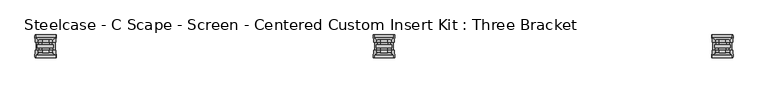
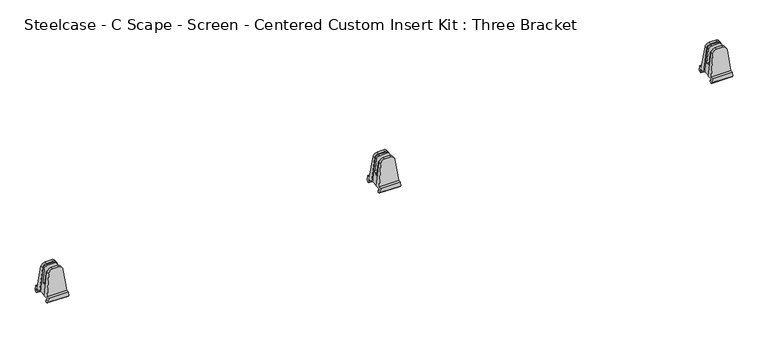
"""IFC4 building model written with IfcOpenShell, lengths in millimetres: furniture geometry, Steelcase - C Scape - Screen - Centered Custom Insert Kit : Three Bracket."""

from ifc_helpers import new_model, si_unit, frame, origin, place, context, project, spatial, circle_curve, ellipse_curve, source, transform, mapped, element, save
from ifc_brep_helpers import plane_surface, cylinder_surface, advanced_brep


def steelcase_c_scape_screen_centered_custom_insert_kit_three_c286ab6d(model_context):
    return source(origin(), model_context, "Body", "AdvancedBrep", [
        advanced_brep(
        [(906.2841595, -3.1752569, 793.5976353), (913.8879451, -3.1752569, 793.5976353), (921.53417, -3.1752569, 793.5976353), (921.53417, 3.17474, 793.5976353), (913.8879451, 3.17474, 793.5976353), (906.2841595, 3.17474, 793.5976353), (895.9729677, -3.1752569, 784.4759275), (888.5293978, -3.1752569, 723.9), (890.6133023, -3.1752569, 723.9), (896.8718736, -3.1752569, 783.4463283), (904.8737285, -3.1752569, 790.6512308), (924.4716053, -3.1752569, 790.6512308), (930.7871278, -3.1752569, 784.9620449), (937.1762521, -3.1752569, 723.9), (939.2889317, -3.1752569, 723.9), (931.8453617, -3.1752569, 784.4759275), (888.5293978, 10.1600734, 723.9), (939.2889317, 10.1600734, 723.9), (937.1762521, -22.2252569, 723.9), (939.2889317, -22.2250614, 723.9), (939.2889317, -35.5603917, 723.9), (888.5293978, -35.5603917, 723.9), (888.5293978, -22.2250614, 723.9), (890.6133023, -22.2250614, 723.9), (888.0607499, 10.1600734, 720.086134), (939.7575796, 10.1600734, 720.086134), (888.0607499, 6.7312129, 720.086134), (939.7575796, 6.7312129, 720.086134), (887.5301568, 6.7312129, 715.7681562), (940.2881727, 6.7312129, 715.7681562), (887.3195087, 9.1438564, 714.375), (940.4563815, 9.1438564, 714.375), (887.3589658, 11.8111354, 714.375), (940.4563815, 11.8111354, 714.375), (887.8271404, 15.6202052, 718.1850145), (939.9911891, 15.6202052, 718.1850145), (889.1754785, 15.6202052, 729.1578186), (938.642851, 15.6202052, 729.1578186), (889.1754785, 8.8135415, 729.1578186), (938.642851, 8.8135415, 729.1578186), (895.9729677, 3.9729344, 784.4759275), (931.8453617, 3.9729344, 784.4759275), (889.1754785, -34.2138598, 729.1578186), (938.642851, -34.2138598, 729.1578186), (931.8453617, -29.3732527, 784.4759275), (921.53417, -28.5750583, 793.5976353), (913.8879451, -28.5750583, 793.5976353), (906.2841595, -28.5750583, 793.5976353), (895.9729677, -29.3732527, 784.4759275), (889.1754785, -41.0205235, 729.1578186), (938.642851, -41.0205235, 729.1578186), (887.8271404, -41.0205235, 718.1850145), (939.9911891, -41.0205235, 718.1850145), (887.3195087, -37.2114537, 714.375), (940.4563815, -37.2114537, 714.375), (887.3589658, -34.5441746, 714.375), (940.4563815, -34.5441746, 714.375), (887.5301568, -32.1315312, 715.7681562), (940.2881727, -32.1315312, 715.7681562), (888.0607499, -32.1315312, 720.086134), (939.7575796, -32.1315312, 720.086134), (888.0607499, -35.5603917, 720.086134), (939.7575796, -35.5603917, 720.086134), (906.2841595, -22.2250614, 793.5976353), (913.8879451, -22.2250614, 793.5976353), (921.53417, -22.2250614, 793.5976353), (931.8453617, -22.2250614, 784.4759275), (931.3292917, -22.2250614, 779.780484), (923.5476145, -22.2250614, 786.79042), (904.0210312, -22.2250614, 786.79042), (896.5128008, -22.2250614, 780.0299789), (895.9729677, -22.2250614, 784.4759275), (904.0210312, -17.4500569, 786.79042), (923.5476145, -17.4500569, 786.79042), (931.3292917, -17.4500569, 779.780484), (934.6142458, -17.4500569, 748.3855694), (893.1868394, -17.4500569, 748.3855694), (896.5128008, -17.4500569, 780.0299789), (893.1868394, -7.9504569, 748.3855694), (896.8718736, -7.9504569, 783.4463283), (930.7871278, -7.9504569, 784.9620449), (934.6142458, -7.9504569, 748.3855694), (904.8737285, -7.9504569, 790.6512308), (924.4716053, -7.9504569, 790.6512308)],
        [
            (0, 1),
            (1, 2),
            (2, 3),
            (3, 4),
            (4, 5),
            (5, 0),
            (0, 6, circle_curve(frame((906.2841595, -3.1752569, 783.2088883), z_axis=(0.0, -1.0, 0.0), x_axis=(-1.0, 0.0, 0.0)), 10.388747)),
            (6, 7),
            (7, 8),
            (8, 9),
            (9, 10, circle_curve(frame((904.8737285, -3.1752569, 782.6052995), z_axis=(0.0, 1.0, 0.0), x_axis=(1.0, 0.0, 0.0)), 8.0459313)),
            (10, 11),
            (11, 12, circle_curve(frame((924.4716053, -3.1752569, 784.3012308), z_axis=(0.0, 1.0, 0.0), x_axis=(1.0, 0.0, 0.0)), 6.35)),
            (12, 13),
            (13, 14),
            (14, 15),
            (15, 2, circle_curve(frame((921.53417, -3.1752569, 783.2088883), z_axis=(0.0, -1.0, 0.0), x_axis=(1.0, 0.0, 0.0)), 10.388747)),
            (16, 17),
            (17, 14),
            (13, 18),
            (18, 19),
            (19, 20),
            (20, 21),
            (21, 22),
            (22, 23),
            (23, 8),
            (7, 16),
            (16, 24),
            (24, 25),
            (25, 17),
            (24, 26),
            (26, 27),
            (27, 25),
            (26, 28),
            (28, 29),
            (29, 27),
            (30, 31),
            (31, 29),
            (28, 30),
            (30, 32),
            (32, 33),
            (33, 31),
            (32, 34),
            (34, 35),
            (35, 33),
            (34, 36),
            (36, 37),
            (37, 35),
            (36, 38),
            (38, 39),
            (39, 37),
            (38, 40),
            (40, 5, ellipse_curve(frame((906.2841595, 4.0838066, 783.2088883), z_axis=(0.0, 0.9961932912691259, 0.08717182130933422), x_axis=(0.0, 0.08717182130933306, -0.9961932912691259)), 10.428445, 10.388747)),
            (3, 41, ellipse_curve(frame((921.53417, 4.0838066, 783.2088883), z_axis=(0.0, 0.9961932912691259, 0.08717182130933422), x_axis=(0.0, 0.08717182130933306, -0.9961932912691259)), 10.428445, 10.388747)),
            (41, 39),
            (42, 43),
            (43, 44),
            (44, 45, ellipse_curve(frame((921.53417, -29.4841248, 783.2088883), z_axis=(0.0, -0.9961932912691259, 0.08717182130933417), x_axis=(0.0, 0.08717182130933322, 0.996193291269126)), 10.428445, 10.388747)),
            (45, 46),
            (46, 47),
            (47, 48, ellipse_curve(frame((906.2841595, -29.4841248, 783.2088883), z_axis=(0.0, -0.9961932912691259, 0.08717182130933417), x_axis=(0.0, 0.08717182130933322, 0.996193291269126)), 10.428445, 10.388747)),
            (48, 42),
            (42, 49),
            (49, 50),
            (50, 43),
            (49, 51),
            (51, 52),
            (52, 50),
            (53, 54),
            (54, 52),
            (51, 53),
            (53, 55),
            (55, 56),
            (56, 54),
            (55, 57),
            (57, 58),
            (58, 56),
            (57, 59),
            (59, 60),
            (60, 58),
            (59, 61),
            (61, 62),
            (62, 60),
            (61, 21),
            (20, 62),
            (63, 64),
            (64, 65),
            (65, 66, circle_curve(frame((921.53417, -22.2250614, 783.2088883), z_axis=(0.0, 1.0, 0.0), x_axis=(1.0, 0.0, 0.0)), 10.388747)),
            (66, 19),
            (18, 67),
            (67, 68, circle_curve(frame((923.5476145, -22.2250614, 778.9662613), z_axis=(0.0, -1.0, 0.0), x_axis=(1.0, 0.0, 0.0)), 7.8241587)),
            (68, 69),
            (69, 70, circle_curve(frame((904.0210312, -22.2250614, 779.2408321), z_axis=(0.0, -1.0, 0.0), x_axis=(1.0, 0.0, 0.0)), 7.5495878)),
            (70, 23),
            (22, 71),
            (71, 63, circle_curve(frame((906.2841595, -22.2250614, 783.2088883), z_axis=(0.0, 1.0, 0.0), x_axis=(-1.0, 0.0, 0.0)), 10.388747)),
            (45, 65),
            (63, 47),
            (6, 40),
            (48, 71),
            (15, 41),
            (44, 66),
            (72, 73),
            (73, 74, circle_curve(frame((923.5476145, -17.4500569, 778.9662613), z_axis=(0.0, 1.0, 0.0), x_axis=(1.0, 0.0, 0.0)), 7.8241587)),
            (74, 75),
            (75, 76),
            (76, 77),
            (77, 72, circle_curve(frame((904.0210312, -17.4500569, 779.2408321), z_axis=(0.0, 1.0, 0.0), x_axis=(1.0, 0.0, 0.0)), 7.5495878)),
            (77, 70),
            (69, 72),
            (76, 78),
            (78, 79),
            (79, 9),
            (12, 80),
            (80, 81),
            (81, 75),
            (74, 67),
            (73, 68),
            (82, 79, circle_curve(frame((904.8737285, -7.9504569, 782.6052995), z_axis=(0.0, -1.0, 0.0), x_axis=(1.0, 0.0, 0.0)), 8.0459313)),
            (78, 81),
            (80, 83, circle_curve(frame((924.4716053, -7.9504569, 784.3012308), z_axis=(0.0, -1.0, 0.0), x_axis=(1.0, 0.0, 0.0)), 6.35)),
            (83, 82),
            (82, 10),
            (11, 83),
        ],
        [
            plane_surface(frame((940.4563815, 3.17474, 793.5976353), z_axis=(0.0, 0.0, 1.0), x_axis=(-1.0, 0.0, 0.0))),
            plane_surface(frame((940.4563815, -3.1752569, 793.5976353), z_axis=(0.0, -1.0, 0.0), x_axis=(-1.0, 0.0, 0.0))),
            plane_surface(frame((940.4563815, -3.1752569, 723.9), z_axis=(0.0, 0.0, -1.0), x_axis=(-1.0, 0.0, 0.0))),
            plane_surface(frame((940.4563815, 10.1600734, 723.9), z_axis=(0.0, -1.0, 0.0), x_axis=(-1.0, 0.0, 0.0))),
            plane_surface(frame((940.4563815, 10.1600734, 720.086134), z_axis=(0.0, 0.0, 1.0), x_axis=(-1.0, 0.0, 0.0))),
            plane_surface(frame((940.4563815, 6.7312129, 720.086134), z_axis=(0.0, -1.0, 0.0), x_axis=(-1.0, 0.0, 0.0))),
            plane_surface(frame((940.4563815, 6.7312129, 715.7681562), z_axis=(0.0, -0.5000581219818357, -0.8659918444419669), x_axis=(-1.0, 0.0, 0.0))),
            plane_surface(frame((940.4563815, 9.1438564, 714.375), z_axis=(0.0, 0.0, -1.0), x_axis=(-1.0, 0.0, 0.0))),
            plane_surface(frame((940.4563815, 11.8111354, 714.375), z_axis=(0.0, 0.7071944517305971, -0.7070190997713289), x_axis=(-1.0, 0.0, 0.0))),
            plane_surface(frame((940.4563815, 15.6202052, 718.1850145), z_axis=(0.0, 1.0, 0.0), x_axis=(-1.0, 0.0, 0.0))),
            plane_surface(frame((940.4563815, 15.6202052, 729.1578186), z_axis=(0.0, 0.0, 1.0), x_axis=(-1.0, 0.0, 0.0))),
            plane_surface(frame((940.4563815, 8.8135415, 729.1578186), z_axis=(0.0, 0.9961932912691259, 0.08717182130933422), x_axis=(-1.0, 0.0, 0.0))),
            plane_surface(frame((940.4563815, -28.5750583, 793.5976353), z_axis=(0.0, -0.9961932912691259, 0.08717182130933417), x_axis=(-1.0, 0.0, 0.0))),
            plane_surface(frame((940.4563815, -34.2138598, 729.1578186), z_axis=(0.0, 0.0, 1.0), x_axis=(-1.0, 0.0, 0.0))),
            plane_surface(frame((940.4563815, -41.0205235, 729.1578186), z_axis=(0.0, -1.0, 0.0), x_axis=(-1.0, 0.0, 0.0))),
            plane_surface(frame((940.4563815, -41.0205235, 718.1850145), z_axis=(0.0, -0.7071944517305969, -0.707019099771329), x_axis=(-1.0, 0.0, 0.0))),
            plane_surface(frame((940.4563815, -37.2114537, 714.375), z_axis=(0.0, 0.0, -1.0), x_axis=(-1.0, 0.0, 0.0))),
            plane_surface(frame((940.4563815, -34.5441746, 714.375), z_axis=(0.0, 0.5000581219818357, -0.8659918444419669), x_axis=(-1.0, 0.0, 0.0))),
            plane_surface(frame((940.4563815, -32.1315312, 715.7681562), z_axis=(0.0, 1.0, 0.0), x_axis=(-1.0, 0.0, 0.0))),
            plane_surface(frame((940.4563815, -32.1315312, 720.086134), z_axis=(0.0, 0.0, 1.0), x_axis=(-1.0, 0.0, 0.0))),
            plane_surface(frame((940.4563815, -35.5603917, 720.086134), z_axis=(0.0, 1.0, 0.0), x_axis=(-1.0, 0.0, 0.0))),
            plane_surface(frame((940.4563815, -22.2250614, 723.9), z_axis=(0.0, 1.0, 0.0), x_axis=(-1.0, 0.0, 0.0))),
            plane_surface(frame((940.4563815, -22.2250614, 793.5976353), z_axis=(0.0, 0.0, 1.0), x_axis=(-1.0, 0.0, 0.0))),
            plane_surface(frame((887.3589658, -43.2064559, 714.375), z_axis=(-0.9925346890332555, 0.0, 0.12196266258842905), x_axis=(0.0, 1.0, 0.0))),
            cylinder_surface(frame((906.2841595, 17.5208706, 783.2088883), z_axis=(0.0, 1.0, 0.0), x_axis=(-1.0, 0.0, 0.0)), 10.388747),
            cylinder_surface(frame((921.53417, 17.5208706, 783.2088883), z_axis=(0.0, 1.0, 0.0), x_axis=(1.0, 0.0, 0.0)), 10.388747),
            plane_surface(frame((931.8453617, -43.2064559, 784.4759275), z_axis=(0.9925346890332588, 0.0, 0.12196266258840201), x_axis=(0.0, 1.0, 0.0))),
            plane_surface(frame((911.5706191, -17.4500569, 779.2408321), z_axis=(0.0, 1.0, 0.0), x_axis=(0.0, 0.0, -1.0))),
            cylinder_surface(frame((904.0210312, -17.4500569, 779.2408321), z_axis=(0.0, -1.0, 0.0), x_axis=(1.0, 0.0, 0.0)), 7.5495878),
            plane_surface(frame((896.5128008, -22.2252569, 780.0299789), z_axis=(-0.9945218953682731, 0.0, 0.10452846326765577), x_axis=(0.0, 1.0, 0.0))),
            plane_surface(frame((937.1762521, -22.2252569, 723.9), z_axis=(0.9945704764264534, 0.0, 0.10406520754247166), x_axis=(0.0, 1.0, 0.0))),
            cylinder_surface(frame((923.5476145, -17.4500569, 778.9662613), z_axis=(0.0, -1.0, 0.0), x_axis=(1.0, 0.0, 0.0)), 7.8241587),
            plane_surface(frame((923.5476145, -22.2252569, 786.79042), z_axis=(0.0, 0.0, 1.0), x_axis=(0.0, 1.0, 0.0))),
            plane_surface(frame((912.9196598, -7.9504569, 782.6052995), z_axis=(0.0, -1.0, 0.0), x_axis=(0.0, 0.0, 1.0))),
            cylinder_surface(frame((904.8737285, -3.1752569, 782.6052995), z_axis=(0.0, -1.0, 0.0), x_axis=(1.0, 0.0, 0.0)), 8.0459313),
            cylinder_surface(frame((924.4716053, -3.1752569, 784.3012308), z_axis=(0.0, -1.0, 0.0), x_axis=(1.0, 0.0, 0.0)), 6.35),
            plane_surface(frame((924.4716053, -7.9504569, 790.6512308), z_axis=(0.0, 0.0, 1.0), x_axis=(0.0, 1.0, 0.0))),
            plane_surface(frame((934.6142458, -17.4500569, 748.3855694), z_axis=(0.0, 0.0, 1.0), x_axis=(0.0, 1.0, 0.0))),
        ],
        [
            (0, [[1, 2, 3, 4, 5, 6]]),
            (1, [[-1, 7, 8, 9, 10, 11, 12, 13, 14, 15, 16, 17, -2]]),
            (2, [[18, 19, -15, 20, 21, 22, 23, 24, 25, 26, -9, 27]]),
            (3, [[-18, 28, 29, 30]]),
            (4, [[-29, 31, 32, 33]]),
            (5, [[-32, 34, 35, 36]]),
            (6, [[37, 38, -35, 39]]),
            (7, [[-37, 40, 41, 42]]),
            (8, [[-41, 43, 44, 45]]),
            (9, [[-44, 46, 47, 48]]),
            (10, [[-47, 49, 50, 51]]),
            (11, [[-50, 52, 53, -5, -4, 54, 55]]),
            (12, [[56, 57, 58, 59, 60, 61, 62]]),
            (13, [[-56, 63, 64, 65]]),
            (14, [[-64, 66, 67, 68]]),
            (15, [[69, 70, -67, 71]]),
            (16, [[-69, 72, 73, 74]]),
            (17, [[-73, 75, 76, 77]]),
            (18, [[-76, 78, 79, 80]]),
            (19, [[-79, 81, 82, 83]]),
            (20, [[-82, 84, -23, 85]]),
            (21, [[86, 87, 88, 89, -21, 90, 91, 92, 93, 94, -25, 95, 96]]),
            (22, [[-59, 97, -87, -86, 98, -60]]),
            (23, [[99, -52, -49, -46, -43, -40, -39, -34, -31, -28, -27, -8]]),
            (23, [[100, -95, -24, -84, -81, -78, -75, -72, -71, -66, -63, -62]]),
            (24, [[-99, -7, -6, -53]]),
            (24, [[-100, -61, -98, -96]]),
            (25, [[101, -54, -3, -17]]),
            (25, [[102, -88, -97, -58]]),
            (26, [[-101, -16, -19, -30, -33, -36, -38, -42, -45, -48, -51, -55]]),
            (26, [[-102, -57, -65, -68, -70, -74, -77, -80, -83, -85, -22, -89]]),
            (27, [[103, 104, 105, 106, 107, 108]]),
            (28, [[-108, 109, -93, 110]]),
            (29, [[-109, -107, 111, 112, 113, -10, -26, -94]]),
            (30, [[-20, -14, 114, 115, 116, -105, 117, -90]]),
            (31, [[-104, 118, -91, -117]]),
            (32, [[-103, -110, -92, -118]]),
            (33, [[119, -112, 120, -115, 121, 122]]),
            (34, [[-119, 123, -11, -113]]),
            (35, [[-121, -114, -13, 124]]),
            (36, [[-122, -124, -12, -123]]),
            (37, [[-111, -106, -116, -120]]),
        ],
    ),
        advanced_brep(
        [(1745.5509563, -3.1752569, 793.5976353), (1753.1547419, -3.1752569, 793.5976353), (1760.8009668, -3.1752569, 793.5976353), (1760.8009668, 3.17474, 793.5976353), (1753.1547419, 3.17474, 793.5976353), (1745.5509563, 3.17474, 793.5976353), (1735.2397645, -3.1752569, 784.4759275), (1727.7961946, -3.1752569, 723.9), (1729.8800991, -3.1752569, 723.9), (1736.1386704, -3.1752569, 783.4463283), (1744.1405253, -3.1752569, 790.6512308), (1763.7384021, -3.1752569, 790.6512308), (1770.0539246, -3.1752569, 784.9620449), (1776.4430489, -3.1752569, 723.9), (1778.5557285, -3.1752569, 723.9), (1771.1121585, -3.1752569, 784.4759275), (1727.7961946, 10.1600734, 723.9), (1778.5557285, 10.1600734, 723.9), (1776.4430489, -22.2252569, 723.9), (1778.5557285, -22.2250614, 723.9), (1778.5557285, -35.5603917, 723.9), (1727.7961946, -35.5603917, 723.9), (1727.7961946, -22.2250614, 723.9), (1729.8800991, -22.2250614, 723.9), (1727.3275467, 10.1600734, 720.086134), (1779.0243764, 10.1600734, 720.086134), (1727.3275467, 6.7312129, 720.086134), (1779.0243764, 6.7312129, 720.086134), (1726.7969536, 6.7312129, 715.7681562), (1779.5549695, 6.7312129, 715.7681562), (1726.5863055, 9.1438564, 714.375), (1779.7231783, 9.1438564, 714.375), (1726.6257626, 11.8111354, 714.375), (1779.7231783, 11.8111354, 714.375), (1727.0939371, 15.6202052, 718.1850145), (1779.2579859, 15.6202052, 718.1850145), (1728.4422753, 15.6202052, 729.1578186), (1777.9096478, 15.6202052, 729.1578186), (1728.4422753, 8.8135415, 729.1578186), (1777.9096478, 8.8135415, 729.1578186), (1735.2397645, 3.9729344, 784.4759275), (1771.1121585, 3.9729344, 784.4759275), (1728.4422753, -34.2138598, 729.1578186), (1777.9096478, -34.2138598, 729.1578186), (1771.1121585, -29.3732527, 784.4759275), (1760.8009668, -28.5750583, 793.5976353), (1753.1547419, -28.5750583, 793.5976353), (1745.5509563, -28.5750583, 793.5976353), (1735.2397645, -29.3732527, 784.4759275), (1728.4422753, -41.0205235, 729.1578186), (1777.9096478, -41.0205235, 729.1578186), (1727.0939371, -41.0205235, 718.1850145), (1779.2579859, -41.0205235, 718.1850145), (1726.5863055, -37.2114537, 714.375), (1779.7231783, -37.2114537, 714.375), (1726.6257626, -34.5441746, 714.375), (1779.7231783, -34.5441746, 714.375), (1726.7969536, -32.1315312, 715.7681562), (1779.5549695, -32.1315312, 715.7681562), (1727.3275467, -32.1315312, 720.086134), (1779.0243764, -32.1315312, 720.086134), (1727.3275467, -35.5603917, 720.086134), (1779.0243764, -35.5603917, 720.086134), (1745.5509563, -22.2250614, 793.5976353), (1753.1547419, -22.2250614, 793.5976353), (1760.8009668, -22.2250614, 793.5976353), (1771.1121585, -22.2250614, 784.4759275), (1770.5960885, -22.2250614, 779.780484), (1762.8144113, -22.2250614, 786.79042), (1743.287828, -22.2250614, 786.79042), (1735.7795976, -22.2250614, 780.0299789), (1735.2397645, -22.2250614, 784.4759275), (1743.287828, -17.4500569, 786.79042), (1762.8144113, -17.4500569, 786.79042), (1770.5960885, -17.4500569, 779.780484), (1773.8810426, -17.4500569, 748.3855694), (1732.4536361, -17.4500569, 748.3855694), (1735.7795976, -17.4500569, 780.0299789), (1732.4536361, -7.9504569, 748.3855694), (1736.1386704, -7.9504569, 783.4463283), (1770.0539246, -7.9504569, 784.9620449), (1773.8810426, -7.9504569, 748.3855694), (1744.1405253, -7.9504569, 790.6512308), (1763.7384021, -7.9504569, 790.6512308)],
        [
            (0, 1),
            (1, 2),
            (2, 3),
            (3, 4),
            (4, 5),
            (5, 0),
            (0, 6, circle_curve(frame((1745.5509563, -3.1752569, 783.2088883), z_axis=(0.0, -1.0, 0.0), x_axis=(-1.0, 0.0, 0.0)), 10.388747)),
            (6, 7),
            (7, 8),
            (8, 9),
            (9, 10, circle_curve(frame((1744.1405253, -3.1752569, 782.6052995), z_axis=(0.0, 1.0, 0.0), x_axis=(1.0, 0.0, 0.0)), 8.0459313)),
            (10, 11),
            (11, 12, circle_curve(frame((1763.7384021, -3.1752569, 784.3012308), z_axis=(0.0, 1.0, 0.0), x_axis=(1.0, 0.0, 0.0)), 6.35)),
            (12, 13),
            (13, 14),
            (14, 15),
            (15, 2, circle_curve(frame((1760.8009668, -3.1752569, 783.2088883), z_axis=(0.0, -1.0, 0.0), x_axis=(1.0, 0.0, 0.0)), 10.388747)),
            (16, 17),
            (17, 14),
            (13, 18),
            (18, 19),
            (19, 20),
            (20, 21),
            (21, 22),
            (22, 23),
            (23, 8),
            (7, 16),
            (16, 24),
            (24, 25),
            (25, 17),
            (24, 26),
            (26, 27),
            (27, 25),
            (26, 28),
            (28, 29),
            (29, 27),
            (30, 31),
            (31, 29),
            (28, 30),
            (30, 32),
            (32, 33),
            (33, 31),
            (32, 34),
            (34, 35),
            (35, 33),
            (34, 36),
            (36, 37),
            (37, 35),
            (36, 38),
            (38, 39),
            (39, 37),
            (38, 40),
            (40, 5, ellipse_curve(frame((1745.5509563, 4.0838066, 783.2088883), z_axis=(0.0, 0.9961932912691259, 0.08717182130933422), x_axis=(0.0, 0.08717182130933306, -0.9961932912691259)), 10.428445, 10.388747)),
            (3, 41, ellipse_curve(frame((1760.8009668, 4.0838066, 783.2088883), z_axis=(0.0, 0.9961932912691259, 0.08717182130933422), x_axis=(0.0, 0.08717182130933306, -0.9961932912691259)), 10.428445, 10.388747)),
            (41, 39),
            (42, 43),
            (43, 44),
            (44, 45, ellipse_curve(frame((1760.8009668, -29.4841248, 783.2088883), z_axis=(0.0, -0.9961932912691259, 0.08717182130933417), x_axis=(0.0, 0.08717182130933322, 0.996193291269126)), 10.428445, 10.388747)),
            (45, 46),
            (46, 47),
            (47, 48, ellipse_curve(frame((1745.5509563, -29.4841248, 783.2088883), z_axis=(0.0, -0.9961932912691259, 0.08717182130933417), x_axis=(0.0, 0.08717182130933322, 0.996193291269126)), 10.428445, 10.388747)),
            (48, 42),
            (42, 49),
            (49, 50),
            (50, 43),
            (49, 51),
            (51, 52),
            (52, 50),
            (53, 54),
            (54, 52),
            (51, 53),
            (53, 55),
            (55, 56),
            (56, 54),
            (55, 57),
            (57, 58),
            (58, 56),
            (57, 59),
            (59, 60),
            (60, 58),
            (59, 61),
            (61, 62),
            (62, 60),
            (61, 21),
            (20, 62),
            (63, 64),
            (64, 65),
            (65, 66, circle_curve(frame((1760.8009668, -22.2250614, 783.2088883), z_axis=(0.0, 1.0, 0.0), x_axis=(1.0, 0.0, 0.0)), 10.388747)),
            (66, 19),
            (18, 67),
            (67, 68, circle_curve(frame((1762.8144113, -22.2250614, 778.9662613), z_axis=(0.0, -1.0, 0.0), x_axis=(1.0, 0.0, 0.0)), 7.8241587)),
            (68, 69),
            (69, 70, circle_curve(frame((1743.287828, -22.2250614, 779.2408321), z_axis=(0.0, -1.0, 0.0), x_axis=(1.0, 0.0, 0.0)), 7.5495878)),
            (70, 23),
            (22, 71),
            (71, 63, circle_curve(frame((1745.5509563, -22.2250614, 783.2088883), z_axis=(0.0, 1.0, 0.0), x_axis=(-1.0, 0.0, 0.0)), 10.388747)),
            (45, 65),
            (63, 47),
            (6, 40),
            (48, 71),
            (15, 41),
            (44, 66),
            (72, 73),
            (73, 74, circle_curve(frame((1762.8144113, -17.4500569, 778.9662613), z_axis=(0.0, 1.0, 0.0), x_axis=(1.0, 0.0, 0.0)), 7.8241587)),
            (74, 75),
            (75, 76),
            (76, 77),
            (77, 72, circle_curve(frame((1743.287828, -17.4500569, 779.2408321), z_axis=(0.0, 1.0, 0.0), x_axis=(1.0, 0.0, 0.0)), 7.5495878)),
            (77, 70),
            (69, 72),
            (76, 78),
            (78, 79),
            (79, 9),
            (12, 80),
            (80, 81),
            (81, 75),
            (74, 67),
            (73, 68),
            (82, 79, circle_curve(frame((1744.1405253, -7.9504569, 782.6052995), z_axis=(0.0, -1.0, 0.0), x_axis=(1.0, 0.0, 0.0)), 8.0459313)),
            (78, 81),
            (80, 83, circle_curve(frame((1763.7384021, -7.9504569, 784.3012308), z_axis=(0.0, -1.0, 0.0), x_axis=(1.0, 0.0, 0.0)), 6.35)),
            (83, 82),
            (82, 10),
            (11, 83),
        ],
        [
            plane_surface(frame((1779.7231783, 3.17474, 793.5976353), z_axis=(0.0, 0.0, 1.0), x_axis=(-1.0, 0.0, 0.0))),
            plane_surface(frame((1779.7231783, -3.1752569, 793.5976353), z_axis=(0.0, -1.0, 0.0), x_axis=(-1.0, 0.0, 0.0))),
            plane_surface(frame((1779.7231783, -3.1752569, 723.9), z_axis=(0.0, 0.0, -1.0), x_axis=(-1.0, 0.0, 0.0))),
            plane_surface(frame((1779.7231783, 10.1600734, 723.9), z_axis=(0.0, -1.0, 0.0), x_axis=(-1.0, 0.0, 0.0))),
            plane_surface(frame((1779.7231783, 10.1600734, 720.086134), z_axis=(0.0, 0.0, 1.0), x_axis=(-1.0, 0.0, 0.0))),
            plane_surface(frame((1779.7231783, 6.7312129, 720.086134), z_axis=(0.0, -1.0, 0.0), x_axis=(-1.0, 0.0, 0.0))),
            plane_surface(frame((1779.7231783, 6.7312129, 715.7681562), z_axis=(0.0, -0.5000581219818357, -0.8659918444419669), x_axis=(-1.0, 0.0, 0.0))),
            plane_surface(frame((1779.7231783, 9.1438564, 714.375), z_axis=(0.0, 0.0, -1.0), x_axis=(-1.0, 0.0, 0.0))),
            plane_surface(frame((1779.7231783, 11.8111354, 714.375), z_axis=(0.0, 0.7071944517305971, -0.7070190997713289), x_axis=(-1.0, 0.0, 0.0))),
            plane_surface(frame((1779.7231783, 15.6202052, 718.1850145), z_axis=(0.0, 1.0, 0.0), x_axis=(-1.0, 0.0, 0.0))),
            plane_surface(frame((1779.7231783, 15.6202052, 729.1578186), z_axis=(0.0, 0.0, 1.0), x_axis=(-1.0, 0.0, 0.0))),
            plane_surface(frame((1779.7231783, 8.8135415, 729.1578186), z_axis=(0.0, 0.9961932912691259, 0.08717182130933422), x_axis=(-1.0, 0.0, 0.0))),
            plane_surface(frame((1779.7231783, -28.5750583, 793.5976353), z_axis=(0.0, -0.9961932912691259, 0.08717182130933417), x_axis=(-1.0, 0.0, 0.0))),
            plane_surface(frame((1779.7231783, -34.2138598, 729.1578186), z_axis=(0.0, 0.0, 1.0), x_axis=(-1.0, 0.0, 0.0))),
            plane_surface(frame((1779.7231783, -41.0205235, 729.1578186), z_axis=(0.0, -1.0, 0.0), x_axis=(-1.0, 0.0, 0.0))),
            plane_surface(frame((1779.7231783, -41.0205235, 718.1850145), z_axis=(0.0, -0.7071944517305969, -0.707019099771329), x_axis=(-1.0, 0.0, 0.0))),
            plane_surface(frame((1779.7231783, -37.2114537, 714.375), z_axis=(0.0, 0.0, -1.0), x_axis=(-1.0, 0.0, 0.0))),
            plane_surface(frame((1779.7231783, -34.5441746, 714.375), z_axis=(0.0, 0.5000581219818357, -0.8659918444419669), x_axis=(-1.0, 0.0, 0.0))),
            plane_surface(frame((1779.7231783, -32.1315312, 715.7681562), z_axis=(0.0, 1.0, 0.0), x_axis=(-1.0, 0.0, 0.0))),
            plane_surface(frame((1779.7231783, -32.1315312, 720.086134), z_axis=(0.0, 0.0, 1.0), x_axis=(-1.0, 0.0, 0.0))),
            plane_surface(frame((1779.7231783, -35.5603917, 720.086134), z_axis=(0.0, 1.0, 0.0), x_axis=(-1.0, 0.0, 0.0))),
            plane_surface(frame((1779.7231783, -22.2250614, 723.9), z_axis=(0.0, 1.0, 0.0), x_axis=(-1.0, 0.0, 0.0))),
            plane_surface(frame((1779.7231783, -22.2250614, 793.5976353), z_axis=(0.0, 0.0, 1.0), x_axis=(-1.0, 0.0, 0.0))),
            plane_surface(frame((1726.6257626, -43.2064559, 714.375), z_axis=(-0.9925346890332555, 0.0, 0.12196266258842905), x_axis=(0.0, 1.0, 0.0))),
            cylinder_surface(frame((1745.5509563, 17.5208706, 783.2088883), z_axis=(0.0, 1.0, 0.0), x_axis=(-1.0, 0.0, 0.0)), 10.388747),
            cylinder_surface(frame((1760.8009668, 17.5208706, 783.2088883), z_axis=(0.0, 1.0, 0.0), x_axis=(1.0, 0.0, 0.0)), 10.388747),
            plane_surface(frame((1771.1121585, -43.2064559, 784.4759275), z_axis=(0.9925346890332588, 0.0, 0.12196266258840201), x_axis=(0.0, 1.0, 0.0))),
            plane_surface(frame((1750.8374158, -17.4500569, 779.2408321), z_axis=(0.0, 1.0, 0.0), x_axis=(0.0, 0.0, -1.0))),
            cylinder_surface(frame((1743.287828, -17.4500569, 779.2408321), z_axis=(0.0, -1.0, 0.0), x_axis=(1.0, 0.0, 0.0)), 7.5495878),
            plane_surface(frame((1735.7795976, -22.2252569, 780.0299789), z_axis=(-0.9945218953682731, 0.0, 0.10452846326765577), x_axis=(0.0, 1.0, 0.0))),
            plane_surface(frame((1776.4430489, -22.2252569, 723.9), z_axis=(0.9945704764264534, 0.0, 0.10406520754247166), x_axis=(0.0, 1.0, 0.0))),
            cylinder_surface(frame((1762.8144113, -17.4500569, 778.9662613), z_axis=(0.0, -1.0, 0.0), x_axis=(1.0, 0.0, 0.0)), 7.8241587),
            plane_surface(frame((1762.8144113, -22.2252569, 786.79042), z_axis=(0.0, 0.0, 1.0), x_axis=(0.0, 1.0, 0.0))),
            plane_surface(frame((1752.1864566, -7.9504569, 782.6052995), z_axis=(0.0, -1.0, 0.0), x_axis=(0.0, 0.0, 1.0))),
            cylinder_surface(frame((1744.1405253, -3.1752569, 782.6052995), z_axis=(0.0, -1.0, 0.0), x_axis=(1.0, 0.0, 0.0)), 8.0459313),
            cylinder_surface(frame((1763.7384021, -3.1752569, 784.3012308), z_axis=(0.0, -1.0, 0.0), x_axis=(1.0, 0.0, 0.0)), 6.35),
            plane_surface(frame((1763.7384021, -7.9504569, 790.6512308), z_axis=(0.0, 0.0, 1.0), x_axis=(0.0, 1.0, 0.0))),
            plane_surface(frame((1773.8810426, -17.4500569, 748.3855694), z_axis=(0.0, 0.0, 1.0), x_axis=(0.0, 1.0, 0.0))),
        ],
        [
            (0, [[1, 2, 3, 4, 5, 6]]),
            (1, [[-1, 7, 8, 9, 10, 11, 12, 13, 14, 15, 16, 17, -2]]),
            (2, [[18, 19, -15, 20, 21, 22, 23, 24, 25, 26, -9, 27]]),
            (3, [[-18, 28, 29, 30]]),
            (4, [[-29, 31, 32, 33]]),
            (5, [[-32, 34, 35, 36]]),
            (6, [[37, 38, -35, 39]]),
            (7, [[-37, 40, 41, 42]]),
            (8, [[-41, 43, 44, 45]]),
            (9, [[-44, 46, 47, 48]]),
            (10, [[-47, 49, 50, 51]]),
            (11, [[-50, 52, 53, -5, -4, 54, 55]]),
            (12, [[56, 57, 58, 59, 60, 61, 62]]),
            (13, [[-56, 63, 64, 65]]),
            (14, [[-64, 66, 67, 68]]),
            (15, [[69, 70, -67, 71]]),
            (16, [[-69, 72, 73, 74]]),
            (17, [[-73, 75, 76, 77]]),
            (18, [[-76, 78, 79, 80]]),
            (19, [[-79, 81, 82, 83]]),
            (20, [[-82, 84, -23, 85]]),
            (21, [[86, 87, 88, 89, -21, 90, 91, 92, 93, 94, -25, 95, 96]]),
            (22, [[-59, 97, -87, -86, 98, -60]]),
            (23, [[99, -52, -49, -46, -43, -40, -39, -34, -31, -28, -27, -8]]),
            (23, [[100, -95, -24, -84, -81, -78, -75, -72, -71, -66, -63, -62]]),
            (24, [[-99, -7, -6, -53]]),
            (24, [[-100, -61, -98, -96]]),
            (25, [[101, -54, -3, -17]]),
            (25, [[102, -88, -97, -58]]),
            (26, [[-101, -16, -19, -30, -33, -36, -38, -42, -45, -48, -51, -55]]),
            (26, [[-102, -57, -65, -68, -70, -74, -77, -80, -83, -85, -22, -89]]),
            (27, [[103, 104, 105, 106, 107, 108]]),
            (28, [[-108, 109, -93, 110]]),
            (29, [[-109, -107, 111, 112, 113, -10, -26, -94]]),
            (30, [[-20, -14, 114, 115, 116, -105, 117, -90]]),
            (31, [[-104, 118, -91, -117]]),
            (32, [[-103, -110, -92, -118]]),
            (33, [[119, -112, 120, -115, 121, 122]]),
            (34, [[-119, 123, -11, -113]]),
            (35, [[-121, -114, -13, 124]]),
            (36, [[-122, -124, -12, -123]]),
            (37, [[-111, -106, -116, -120]]),
        ],
    ),
        advanced_brep(
        [(67.0173627, -3.1752569, 793.5976353), (74.6211483, -3.1752569, 793.5976353), (82.2673732, -3.1752569, 793.5976353), (82.2673732, 3.17474, 793.5976353), (74.6211483, 3.17474, 793.5976353), (67.0173627, 3.17474, 793.5976353), (56.706171, -3.1752569, 784.4759275), (49.262601, -3.1752569, 723.9), (51.3465055, -3.1752569, 723.9), (57.6050768, -3.1752569, 783.4463283), (65.6069317, -3.1752569, 790.6512308), (85.2048085, -3.1752569, 790.6512308), (91.520331, -3.1752569, 784.9620449), (97.9094553, -3.1752569, 723.9), (100.0221349, -3.1752569, 723.9), (92.578565, -3.1752569, 784.4759275), (49.262601, 10.1600734, 723.9), (100.0221349, 10.1600734, 723.9), (97.9094553, -22.2252569, 723.9), (100.0221349, -22.2250614, 723.9), (100.0221349, -35.5603917, 723.9), (49.262601, -35.5603917, 723.9), (49.262601, -22.2250614, 723.9), (51.3465055, -22.2250614, 723.9), (48.7939531, 10.1600734, 720.086134), (100.4907828, 10.1600734, 720.086134), (48.7939531, 6.7312129, 720.086134), (100.4907828, 6.7312129, 720.086134), (48.26336, 6.7312129, 715.7681562), (101.0213759, 6.7312129, 715.7681562), (48.0527119, 9.1438564, 714.375), (101.1895848, 9.1438564, 714.375), (48.092169, 11.8111354, 714.375), (101.1895848, 11.8111354, 714.375), (48.5603436, 15.6202052, 718.1850145), (100.7243923, 15.6202052, 718.1850145), (49.9086817, 15.6202052, 729.1578186), (99.3760542, 15.6202052, 729.1578186), (49.9086817, 8.8135415, 729.1578186), (99.3760542, 8.8135415, 729.1578186), (56.706171, 3.9729344, 784.4759275), (92.578565, 3.9729344, 784.4759275), (49.9086817, -34.2138598, 729.1578186), (99.3760542, -34.2138598, 729.1578186), (92.578565, -29.3732527, 784.4759275), (82.2673732, -28.5750583, 793.5976353), (74.6211483, -28.5750583, 793.5976353), (67.0173627, -28.5750583, 793.5976353), (56.706171, -29.3732527, 784.4759275), (49.9086817, -41.0205235, 729.1578186), (99.3760542, -41.0205235, 729.1578186), (48.5603436, -41.0205235, 718.1850145), (100.7243923, -41.0205235, 718.1850145), (48.0527119, -37.2114537, 714.375), (101.1895848, -37.2114537, 714.375), (48.092169, -34.5441746, 714.375), (101.1895848, -34.5441746, 714.375), (48.26336, -32.1315312, 715.7681562), (101.0213759, -32.1315312, 715.7681562), (48.7939531, -32.1315312, 720.086134), (100.4907828, -32.1315312, 720.086134), (48.7939531, -35.5603917, 720.086134), (100.4907828, -35.5603917, 720.086134), (67.0173627, -22.2250614, 793.5976353), (74.6211483, -22.2250614, 793.5976353), (82.2673732, -22.2250614, 793.5976353), (92.578565, -22.2250614, 784.4759275), (92.0624949, -22.2250614, 779.780484), (84.2808177, -22.2250614, 786.79042), (64.7542344, -22.2250614, 786.79042), (57.246004, -22.2250614, 780.0299789), (56.706171, -22.2250614, 784.4759275), (64.7542344, -17.4500569, 786.79042), (84.2808177, -17.4500569, 786.79042), (92.0624949, -17.4500569, 779.780484), (95.347449, -17.4500569, 748.3855694), (53.9200426, -17.4500569, 748.3855694), (57.246004, -17.4500569, 780.0299789), (53.9200426, -7.9504569, 748.3855694), (57.6050768, -7.9504569, 783.4463283), (91.520331, -7.9504569, 784.9620449), (95.347449, -7.9504569, 748.3855694), (65.6069317, -7.9504569, 790.6512308), (85.2048085, -7.9504569, 790.6512308)],
        [
            (0, 1),
            (1, 2),
            (2, 3),
            (3, 4),
            (4, 5),
            (5, 0),
            (0, 6, circle_curve(frame((67.0173627, -3.1752569, 783.2088883), z_axis=(0.0, -1.0, 0.0), x_axis=(-1.0, 0.0, 0.0)), 10.388747)),
            (6, 7),
            (7, 8),
            (8, 9),
            (9, 10, circle_curve(frame((65.6069317, -3.1752569, 782.6052995), z_axis=(0.0, 1.0, 0.0), x_axis=(1.0, 0.0, 0.0)), 8.0459313)),
            (10, 11),
            (11, 12, circle_curve(frame((85.2048085, -3.1752569, 784.3012308), z_axis=(0.0, 1.0, 0.0), x_axis=(1.0, 0.0, 0.0)), 6.35)),
            (12, 13),
            (13, 14),
            (14, 15),
            (15, 2, circle_curve(frame((82.2673732, -3.1752569, 783.2088883), z_axis=(0.0, -1.0, 0.0), x_axis=(1.0, 0.0, 0.0)), 10.388747)),
            (16, 17),
            (17, 14),
            (13, 18),
            (18, 19),
            (19, 20),
            (20, 21),
            (21, 22),
            (22, 23),
            (23, 8),
            (7, 16),
            (16, 24),
            (24, 25),
            (25, 17),
            (24, 26),
            (26, 27),
            (27, 25),
            (26, 28),
            (28, 29),
            (29, 27),
            (30, 31),
            (31, 29),
            (28, 30),
            (30, 32),
            (32, 33),
            (33, 31),
            (32, 34),
            (34, 35),
            (35, 33),
            (34, 36),
            (36, 37),
            (37, 35),
            (36, 38),
            (38, 39),
            (39, 37),
            (38, 40),
            (40, 5, ellipse_curve(frame((67.0173627, 4.0838066, 783.2088883), z_axis=(0.0, 0.9961932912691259, 0.08717182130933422), x_axis=(0.0, 0.08717182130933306, -0.9961932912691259)), 10.428445, 10.388747)),
            (3, 41, ellipse_curve(frame((82.2673732, 4.0838066, 783.2088883), z_axis=(0.0, 0.9961932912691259, 0.08717182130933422), x_axis=(0.0, 0.08717182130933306, -0.9961932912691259)), 10.428445, 10.388747)),
            (41, 39),
            (42, 43),
            (43, 44),
            (44, 45, ellipse_curve(frame((82.2673732, -29.4841248, 783.2088883), z_axis=(0.0, -0.9961932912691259, 0.08717182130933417), x_axis=(0.0, 0.08717182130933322, 0.996193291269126)), 10.428445, 10.388747)),
            (45, 46),
            (46, 47),
            (47, 48, ellipse_curve(frame((67.0173627, -29.4841248, 783.2088883), z_axis=(0.0, -0.9961932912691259, 0.08717182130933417), x_axis=(0.0, 0.08717182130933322, 0.996193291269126)), 10.428445, 10.388747)),
            (48, 42),
            (42, 49),
            (49, 50),
            (50, 43),
            (49, 51),
            (51, 52),
            (52, 50),
            (53, 54),
            (54, 52),
            (51, 53),
            (53, 55),
            (55, 56),
            (56, 54),
            (55, 57),
            (57, 58),
            (58, 56),
            (57, 59),
            (59, 60),
            (60, 58),
            (59, 61),
            (61, 62),
            (62, 60),
            (61, 21),
            (20, 62),
            (63, 64),
            (64, 65),
            (65, 66, circle_curve(frame((82.2673732, -22.2250614, 783.2088883), z_axis=(0.0, 1.0, 0.0), x_axis=(1.0, 0.0, 0.0)), 10.388747)),
            (66, 19),
            (18, 67),
            (67, 68, circle_curve(frame((84.2808177, -22.2250614, 778.9662613), z_axis=(0.0, -1.0, 0.0), x_axis=(1.0, 0.0, 0.0)), 7.8241587)),
            (68, 69),
            (69, 70, circle_curve(frame((64.7542344, -22.2250614, 779.2408321), z_axis=(0.0, -1.0, 0.0), x_axis=(1.0, 0.0, 0.0)), 7.5495878)),
            (70, 23),
            (22, 71),
            (71, 63, circle_curve(frame((67.0173627, -22.2250614, 783.2088883), z_axis=(0.0, 1.0, 0.0), x_axis=(-1.0, 0.0, 0.0)), 10.388747)),
            (45, 65),
            (63, 47),
            (6, 40),
            (48, 71),
            (15, 41),
            (44, 66),
            (72, 73),
            (73, 74, circle_curve(frame((84.2808177, -17.4500569, 778.9662613), z_axis=(0.0, 1.0, 0.0), x_axis=(1.0, 0.0, 0.0)), 7.8241587)),
            (74, 75),
            (75, 76),
            (76, 77),
            (77, 72, circle_curve(frame((64.7542344, -17.4500569, 779.2408321), z_axis=(0.0, 1.0, 0.0), x_axis=(1.0, 0.0, 0.0)), 7.5495878)),
            (77, 70),
            (69, 72),
            (76, 78),
            (78, 79),
            (79, 9),
            (12, 80),
            (80, 81),
            (81, 75),
            (74, 67),
            (73, 68),
            (82, 79, circle_curve(frame((65.6069317, -7.9504569, 782.6052995), z_axis=(0.0, -1.0, 0.0), x_axis=(1.0, 0.0, 0.0)), 8.0459313)),
            (78, 81),
            (80, 83, circle_curve(frame((85.2048085, -7.9504569, 784.3012308), z_axis=(0.0, -1.0, 0.0), x_axis=(1.0, 0.0, 0.0)), 6.35)),
            (83, 82),
            (82, 10),
            (11, 83),
        ],
        [
            plane_surface(frame((101.1895848, 3.17474, 793.5976353), z_axis=(0.0, 0.0, 1.0), x_axis=(-1.0, 0.0, 0.0))),
            plane_surface(frame((101.1895848, -3.1752569, 793.5976353), z_axis=(0.0, -1.0, 0.0), x_axis=(-1.0, 0.0, 0.0))),
            plane_surface(frame((101.1895848, -3.1752569, 723.9), z_axis=(0.0, 0.0, -1.0), x_axis=(-1.0, 0.0, 0.0))),
            plane_surface(frame((101.1895848, 10.1600734, 723.9), z_axis=(0.0, -1.0, 0.0), x_axis=(-1.0, 0.0, 0.0))),
            plane_surface(frame((101.1895848, 10.1600734, 720.086134), z_axis=(0.0, 0.0, 1.0), x_axis=(-1.0, 0.0, 0.0))),
            plane_surface(frame((101.1895848, 6.7312129, 720.086134), z_axis=(0.0, -1.0, 0.0), x_axis=(-1.0, 0.0, 0.0))),
            plane_surface(frame((101.1895848, 6.7312129, 715.7681562), z_axis=(0.0, -0.5000581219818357, -0.8659918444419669), x_axis=(-1.0, 0.0, 0.0))),
            plane_surface(frame((101.1895848, 9.1438564, 714.375), z_axis=(0.0, 0.0, -1.0), x_axis=(-1.0, 0.0, 0.0))),
            plane_surface(frame((101.1895848, 11.8111354, 714.375), z_axis=(0.0, 0.7071944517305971, -0.7070190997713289), x_axis=(-1.0, 0.0, 0.0))),
            plane_surface(frame((101.1895848, 15.6202052, 718.1850145), z_axis=(0.0, 1.0, 0.0), x_axis=(-1.0, 0.0, 0.0))),
            plane_surface(frame((101.1895848, 15.6202052, 729.1578186), z_axis=(0.0, 0.0, 1.0), x_axis=(-1.0, 0.0, 0.0))),
            plane_surface(frame((101.1895848, 8.8135415, 729.1578186), z_axis=(0.0, 0.9961932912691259, 0.08717182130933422), x_axis=(-1.0, 0.0, 0.0))),
            plane_surface(frame((101.1895848, -28.5750583, 793.5976353), z_axis=(0.0, -0.9961932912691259, 0.08717182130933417), x_axis=(-1.0, 0.0, 0.0))),
            plane_surface(frame((101.1895848, -34.2138598, 729.1578186), z_axis=(0.0, 0.0, 1.0), x_axis=(-1.0, 0.0, 0.0))),
            plane_surface(frame((101.1895848, -41.0205235, 729.1578186), z_axis=(0.0, -1.0, 0.0), x_axis=(-1.0, 0.0, 0.0))),
            plane_surface(frame((101.1895848, -41.0205235, 718.1850145), z_axis=(0.0, -0.7071944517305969, -0.707019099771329), x_axis=(-1.0, 0.0, 0.0))),
            plane_surface(frame((101.1895848, -37.2114537, 714.375), z_axis=(0.0, 0.0, -1.0), x_axis=(-1.0, 0.0, 0.0))),
            plane_surface(frame((101.1895848, -34.5441746, 714.375), z_axis=(0.0, 0.5000581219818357, -0.8659918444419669), x_axis=(-1.0, 0.0, 0.0))),
            plane_surface(frame((101.1895848, -32.1315312, 715.7681562), z_axis=(0.0, 1.0, 0.0), x_axis=(-1.0, 0.0, 0.0))),
            plane_surface(frame((101.1895848, -32.1315312, 720.086134), z_axis=(0.0, 0.0, 1.0), x_axis=(-1.0, 0.0, 0.0))),
            plane_surface(frame((101.1895848, -35.5603917, 720.086134), z_axis=(0.0, 1.0, 0.0), x_axis=(-1.0, 0.0, 0.0))),
            plane_surface(frame((101.1895848, -22.2250614, 723.9), z_axis=(0.0, 1.0, 0.0), x_axis=(-1.0, 0.0, 0.0))),
            plane_surface(frame((101.1895848, -22.2250614, 793.5976353), z_axis=(0.0, 0.0, 1.0), x_axis=(-1.0, 0.0, 0.0))),
            plane_surface(frame((48.092169, -43.2064559, 714.375), z_axis=(-0.9925346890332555, 0.0, 0.12196266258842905), x_axis=(0.0, 1.0, 0.0))),
            cylinder_surface(frame((67.0173627, 17.5208706, 783.2088883), z_axis=(0.0, 1.0, 0.0), x_axis=(-1.0, 0.0, 0.0)), 10.388747),
            cylinder_surface(frame((82.2673732, 17.5208706, 783.2088883), z_axis=(0.0, 1.0, 0.0), x_axis=(1.0, 0.0, 0.0)), 10.388747),
            plane_surface(frame((92.578565, -43.2064559, 784.4759275), z_axis=(0.9925346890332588, 0.0, 0.12196266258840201), x_axis=(0.0, 1.0, 0.0))),
            plane_surface(frame((72.3038223, -17.4500569, 779.2408321), z_axis=(0.0, 1.0, 0.0), x_axis=(0.0, 0.0, -1.0))),
            cylinder_surface(frame((64.7542344, -17.4500569, 779.2408321), z_axis=(0.0, -1.0, 0.0), x_axis=(1.0, 0.0, 0.0)), 7.5495878),
            plane_surface(frame((57.246004, -22.2252569, 780.0299789), z_axis=(-0.9945218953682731, 0.0, 0.10452846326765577), x_axis=(0.0, 1.0, 0.0))),
            plane_surface(frame((97.9094553, -22.2252569, 723.9), z_axis=(0.9945704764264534, 0.0, 0.10406520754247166), x_axis=(0.0, 1.0, 0.0))),
            cylinder_surface(frame((84.2808177, -17.4500569, 778.9662613), z_axis=(0.0, -1.0, 0.0), x_axis=(1.0, 0.0, 0.0)), 7.8241587),
            plane_surface(frame((84.2808177, -22.2252569, 786.79042), z_axis=(0.0, 0.0, 1.0), x_axis=(0.0, 1.0, 0.0))),
            plane_surface(frame((73.652863, -7.9504569, 782.6052995), z_axis=(0.0, -1.0, 0.0), x_axis=(0.0, 0.0, 1.0))),
            cylinder_surface(frame((65.6069317, -3.1752569, 782.6052995), z_axis=(0.0, -1.0, 0.0), x_axis=(1.0, 0.0, 0.0)), 8.0459313),
            cylinder_surface(frame((85.2048085, -3.1752569, 784.3012308), z_axis=(0.0, -1.0, 0.0), x_axis=(1.0, 0.0, 0.0)), 6.35),
            plane_surface(frame((85.2048085, -7.9504569, 790.6512308), z_axis=(0.0, 0.0, 1.0), x_axis=(0.0, 1.0, 0.0))),
            plane_surface(frame((95.347449, -17.4500569, 748.3855694), z_axis=(0.0, 0.0, 1.0), x_axis=(0.0, 1.0, 0.0))),
        ],
        [
            (0, [[1, 2, 3, 4, 5, 6]]),
            (1, [[-1, 7, 8, 9, 10, 11, 12, 13, 14, 15, 16, 17, -2]]),
            (2, [[18, 19, -15, 20, 21, 22, 23, 24, 25, 26, -9, 27]]),
            (3, [[-18, 28, 29, 30]]),
            (4, [[-29, 31, 32, 33]]),
            (5, [[-32, 34, 35, 36]]),
            (6, [[37, 38, -35, 39]]),
            (7, [[-37, 40, 41, 42]]),
            (8, [[-41, 43, 44, 45]]),
            (9, [[-44, 46, 47, 48]]),
            (10, [[-47, 49, 50, 51]]),
            (11, [[-50, 52, 53, -5, -4, 54, 55]]),
            (12, [[56, 57, 58, 59, 60, 61, 62]]),
            (13, [[-56, 63, 64, 65]]),
            (14, [[-64, 66, 67, 68]]),
            (15, [[69, 70, -67, 71]]),
            (16, [[-69, 72, 73, 74]]),
            (17, [[-73, 75, 76, 77]]),
            (18, [[-76, 78, 79, 80]]),
            (19, [[-79, 81, 82, 83]]),
            (20, [[-82, 84, -23, 85]]),
            (21, [[86, 87, 88, 89, -21, 90, 91, 92, 93, 94, -25, 95, 96]]),
            (22, [[-59, 97, -87, -86, 98, -60]]),
            (23, [[99, -52, -49, -46, -43, -40, -39, -34, -31, -28, -27, -8]]),
            (23, [[100, -95, -24, -84, -81, -78, -75, -72, -71, -66, -63, -62]]),
            (24, [[-99, -7, -6, -53]]),
            (24, [[-100, -61, -98, -96]]),
            (25, [[101, -54, -3, -17]]),
            (25, [[102, -88, -97, -58]]),
            (26, [[-101, -16, -19, -30, -33, -36, -38, -42, -45, -48, -51, -55]]),
            (26, [[-102, -57, -65, -68, -70, -74, -77, -80, -83, -85, -22, -89]]),
            (27, [[103, 104, 105, 106, 107, 108]]),
            (28, [[-108, 109, -93, 110]]),
            (29, [[-109, -107, 111, 112, 113, -10, -26, -94]]),
            (30, [[-20, -14, 114, 115, 116, -105, 117, -90]]),
            (31, [[-104, 118, -91, -117]]),
            (32, [[-103, -110, -92, -118]]),
            (33, [[119, -112, 120, -115, 121, 122]]),
            (34, [[-119, 123, -11, -113]]),
            (35, [[-121, -114, -13, 124]]),
            (36, [[-122, -124, -12, -123]]),
            (37, [[-111, -106, -116, -120]]),
        ],
    ),
    ])


if __name__ == "__main__":
    model = new_model("IFC4")
    model_context = context("Model", 3, world=origin())
    ifc_project = project(units=[si_unit("LENGTHUNIT", "METRE", prefix="MILLI")], contexts=[model_context])
    site = spatial("IfcSite", under=ifc_project)
    building = spatial("IfcBuilding", under=site)
    placement = place(None, origin())
    steelcase_c_scape_screen_centered_custom_insert_kit_three_shape = steelcase_c_scape_screen_centered_custom_insert_kit_three_c286ab6d(model_context)
    element("IfcFurniture", 1, ObjectType="Steelcase - C Scape - Screen - Centered Custom Insert Kit : Three Bracket", at=placement, inside=building, context=model_context, shape_type="MappedRepresentation", body=[
        mapped(steelcase_c_scape_screen_centered_custom_insert_kit_three_shape, transform((0.0, 0.0, 0.0), x_axis=(1.0, 0.0, 0.0), y_axis=(0.0, 1.0, 0.0), z_axis=(0.0, 0.0, 1.0))),
    ])
    save(model, "model.ifc")
